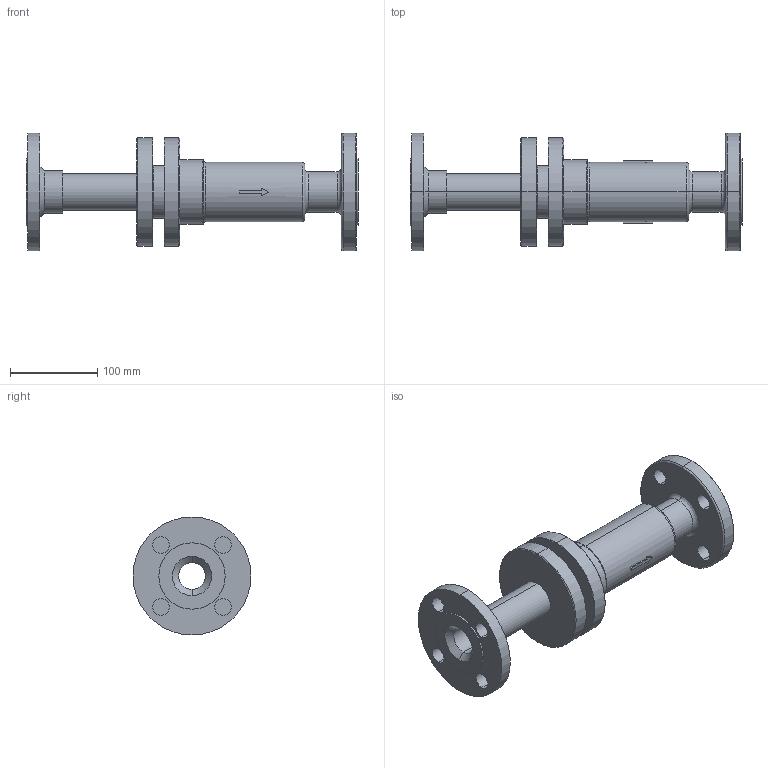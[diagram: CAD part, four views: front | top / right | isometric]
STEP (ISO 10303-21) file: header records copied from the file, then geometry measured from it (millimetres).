
FILE_DESCRIPTION( (''), '2;1');
FILE_NAME ('PC1027.9516.ES-10-100 32A_26918.stp','2025-07-30T11:51:53',(''),(''),'spGate 20.6.3 (****-****-****-****)','','');
FILE_SCHEMA (('AUTOMOTIVE_DESIGN'));
Length unit declared in the file: millimetre
Bounding box: 380 x 135 x 135 mm (x, y, z)
Volume: 1381710.3 mm3; surface area: 212317 mm2
Topology: 1 solids, 1 shells, 103 faces, 236 edges, 148 vertices
Faces by surface type: cylinder 42, bspline 32, plane 29
Entity records: 5227 total; most frequent: CARTESIAN_POINT 1087, ORIENTED_EDGE 472, DIRECTION 426, COLOUR_RGB 340, PRESENTATION_STYLE_ASSIGNMENT 340, STYLED_ITEM 340, EDGE_CURVE 236, DRAUGHTING_PRE_DEFINED_CURVE_FONT 236
